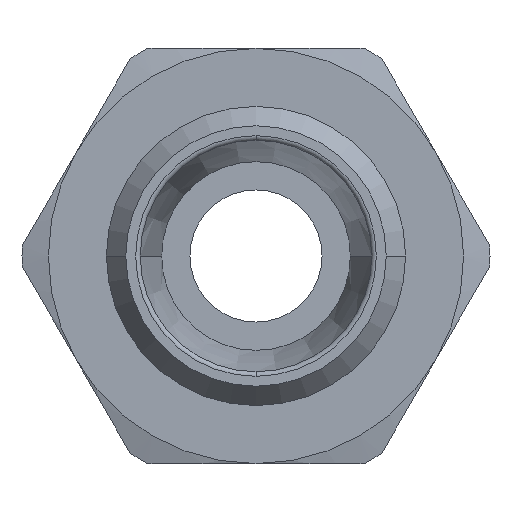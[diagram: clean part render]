
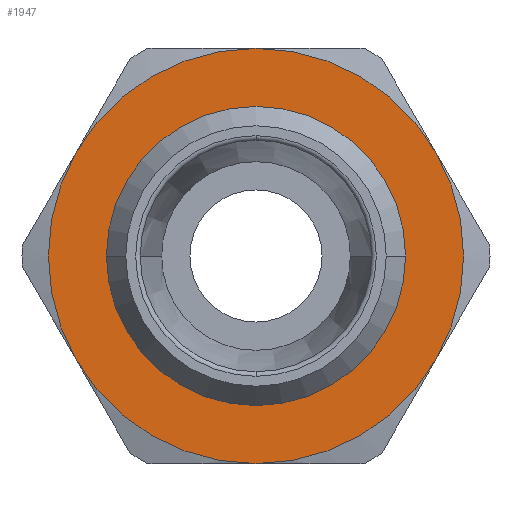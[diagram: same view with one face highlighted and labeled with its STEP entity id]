
A CAD part, left-side view. The second image highlights one B-rep face of the part: STEP entity #1947.
In plain terms, the highlighted planar face has unit normal (-1, 0, 0) as drawn and (0, 0, 1) by its records, which use the part's own axes.
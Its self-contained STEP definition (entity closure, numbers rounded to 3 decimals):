
#857=CARTESIAN_POINT('',(-7.8,0.,3.0));
#858=VERTEX_POINT('',#857);
#884=CARTESIAN_POINT('',(7.8,0.,3.0));
#885=VERTEX_POINT('',#884);
#893=CARTESIAN_POINT('',(0.,0.0,3.0));
#894=DIRECTION('',(0.0,0.0,1.0));
#895=DIRECTION('',(-1.0,0.0,0.0));
#896=AXIS2_PLACEMENT_3D('',#893,#894,#895);
#897=CIRCLE('',#896,7.8);
#898=EDGE_CURVE('',#885,#858,#897,.T.);
#1827=CARTESIAN_POINT('',(0.,-7.8,3.));
#1828=VERTEX_POINT('',#1827);
#1829=CARTESIAN_POINT('',(0.,0.0,3.0));
#1830=DIRECTION('',(0.0,0.0,1.0));
#1831=DIRECTION('',(-1.0,0.0,0.0));
#1832=AXIS2_PLACEMENT_3D('',#1829,#1830,#1831);
#1833=CIRCLE('',#1832,7.8);
#1834=EDGE_CURVE('',#858,#1828,#1833,.T.);
#1836=CARTESIAN_POINT('',(0.,0.0,3.0));
#1837=DIRECTION('',(0.0,0.0,1.0));
#1838=DIRECTION('',(-1.0,0.0,0.0));
#1839=AXIS2_PLACEMENT_3D('',#1836,#1837,#1838);
#1840=CIRCLE('',#1839,7.8);
#1841=EDGE_CURVE('',#1828,#885,#1840,.T.);
#1881=CARTESIAN_POINT('',(0.,0.,3.0));
#1882=DIRECTION('',(0.0,0.0,1.0));
#1883=DIRECTION('',(1.0,0.0,0.0));
#1884=AXIS2_PLACEMENT_3D('',#1881,#1882,#1883);
#1885=PLANE('',#1884);
#1886=CARTESIAN_POINT('',(5.5,-9.526,3.));
#1887=VERTEX_POINT('',#1886);
#1888=CARTESIAN_POINT('',(11.,0.0,3.));
#1889=VERTEX_POINT('',#1888);
#1890=CARTESIAN_POINT('',(0.,0.0,3.0));
#1891=DIRECTION('',(0.0,0.0,1.0));
#1892=DIRECTION('',(1.0,0.0,0.0));
#1893=AXIS2_PLACEMENT_3D('',#1890,#1891,#1892);
#1894=CIRCLE('',#1893,11.);
#1895=EDGE_CURVE('',#1887,#1889,#1894,.T.);
#1896=ORIENTED_EDGE('',*,*,#1895,.T.);
#1897=CARTESIAN_POINT('',(5.5,9.526,3.));
#1898=VERTEX_POINT('',#1897);
#1899=CARTESIAN_POINT('',(0.,0.0,3.0));
#1900=DIRECTION('',(0.0,0.0,1.0));
#1901=DIRECTION('',(1.0,0.0,0.0));
#1902=AXIS2_PLACEMENT_3D('',#1899,#1900,#1901);
#1903=CIRCLE('',#1902,11.);
#1904=EDGE_CURVE('',#1889,#1898,#1903,.T.);
#1905=ORIENTED_EDGE('',*,*,#1904,.T.);
#1906=CARTESIAN_POINT('',(-5.5,9.526,3.));
#1907=VERTEX_POINT('',#1906);
#1908=CARTESIAN_POINT('',(0.,0.0,3.0));
#1909=DIRECTION('',(0.0,0.0,1.0));
#1910=DIRECTION('',(1.0,0.0,0.0));
#1911=AXIS2_PLACEMENT_3D('',#1908,#1909,#1910);
#1912=CIRCLE('',#1911,11.);
#1913=EDGE_CURVE('',#1898,#1907,#1912,.T.);
#1914=ORIENTED_EDGE('',*,*,#1913,.T.);
#1915=CARTESIAN_POINT('',(-11.0,0.,3.));
#1916=VERTEX_POINT('',#1915);
#1917=CARTESIAN_POINT('',(0.,0.0,3.0));
#1918=DIRECTION('',(0.0,0.0,1.0));
#1919=DIRECTION('',(1.0,0.0,0.0));
#1920=AXIS2_PLACEMENT_3D('',#1917,#1918,#1919);
#1921=CIRCLE('',#1920,11.);
#1922=EDGE_CURVE('',#1907,#1916,#1921,.T.);
#1923=ORIENTED_EDGE('',*,*,#1922,.T.);
#1924=CARTESIAN_POINT('',(-5.5,-9.526,3.));
#1925=VERTEX_POINT('',#1924);
#1926=CARTESIAN_POINT('',(0.,0.0,3.0));
#1927=DIRECTION('',(0.0,0.0,1.0));
#1928=DIRECTION('',(1.0,0.0,0.0));
#1929=AXIS2_PLACEMENT_3D('',#1926,#1927,#1928);
#1930=CIRCLE('',#1929,11.);
#1931=EDGE_CURVE('',#1916,#1925,#1930,.T.);
#1932=ORIENTED_EDGE('',*,*,#1931,.T.);
#1933=CARTESIAN_POINT('',(0.,0.0,3.0));
#1934=DIRECTION('',(0.0,0.0,1.0));
#1935=DIRECTION('',(1.0,0.0,0.0));
#1936=AXIS2_PLACEMENT_3D('',#1933,#1934,#1935);
#1937=CIRCLE('',#1936,11.);
#1938=EDGE_CURVE('',#1925,#1887,#1937,.T.);
#1939=ORIENTED_EDGE('',*,*,#1938,.T.);
#1940=EDGE_LOOP('',(#1896,#1905,#1914,#1923,#1932,#1939));
#1941=FACE_OUTER_BOUND('',#1940,.T.);
#1942=ORIENTED_EDGE('',*,*,#1841,.F.);
#1943=ORIENTED_EDGE('',*,*,#1834,.F.);
#1944=ORIENTED_EDGE('',*,*,#898,.F.);
#1945=EDGE_LOOP('',(#1942,#1943,#1944));
#1946=FACE_BOUND('',#1945,.T.);
#1947=ADVANCED_FACE('',(#1941,#1946),#1885,.T.);
